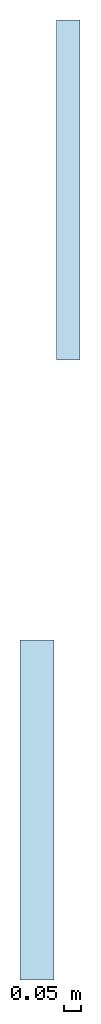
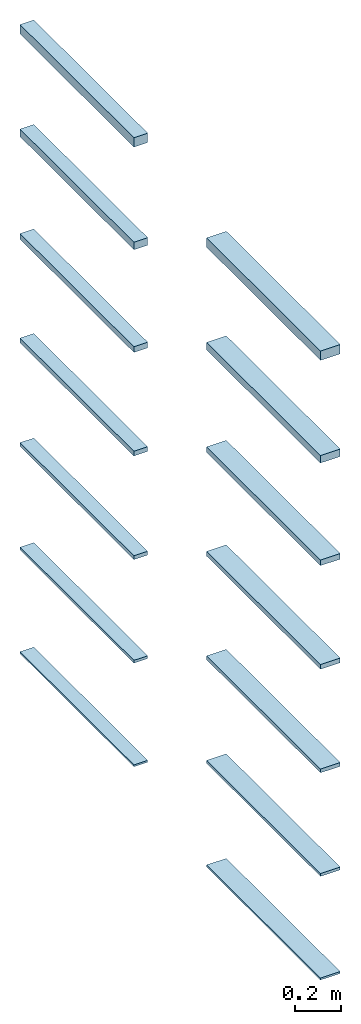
# One storey: 14 slabs.
"""IFC2X3 building model written with IfcOpenShell, lengths in metres."""

from ifc_helpers import new_model, entity, si_unit, converted_unit, derived_unit, direction, frame, frame_2d, origin, place, context, subcontext, project, spatial, rectangle, extrude, material, layer, layer_set, layer_usage, element, save


model = new_model("IFC2X3")

# Units and contexts
model_context = context("Model", 3, precision=1e-05, world=origin(), true_north=direction((6.12303176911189e-17, 1.0)))
body_context = subcontext(model_context, "Body", "Model", "MODEL_VIEW")
ifc_project = project(units=[si_unit("LENGTHUNIT", "METRE"), si_unit("AREAUNIT", "SQUARE_METRE"), si_unit("VOLUMEUNIT", "CUBIC_METRE"), converted_unit("PLANEANGLEUNIT", "DEGREE", entity("IfcRatioMeasure", 0.0174532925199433), si_unit("PLANEANGLEUNIT", "RADIAN"), dimensions=[0, 0, 0, 0, 0, 0, 0]), si_unit("MASSUNIT", "GRAM", prefix="KILO"), derived_unit("MASSDENSITYUNIT", [(si_unit("MASSUNIT", "GRAM", prefix="KILO"), 1), (si_unit("LENGTHUNIT", "METRE"), -3)]), si_unit("TIMEUNIT", "SECOND"), si_unit("FREQUENCYUNIT", "HERTZ"), si_unit("THERMODYNAMICTEMPERATUREUNIT", "DEGREE_CELSIUS"), derived_unit("THERMALTRANSMITTANCEUNIT", [(si_unit("MASSUNIT", "GRAM", prefix="KILO"), 1), (si_unit("THERMODYNAMICTEMPERATUREUNIT", "KELVIN"), -1), (si_unit("TIMEUNIT", "SECOND"), -3)]), derived_unit("VOLUMETRICFLOWRATEUNIT", [(si_unit("LENGTHUNIT", "METRE"), 3), (si_unit("TIMEUNIT", "SECOND"), -1)]), si_unit("ELECTRICCURRENTUNIT", "AMPERE"), si_unit("ELECTRICVOLTAGEUNIT", "VOLT"), si_unit("POWERUNIT", "WATT"), si_unit("FORCEUNIT", "NEWTON", prefix="KILO"), si_unit("ILLUMINANCEUNIT", "LUX"), si_unit("LUMINOUSFLUXUNIT", "LUMEN"), si_unit("LUMINOUSINTENSITYUNIT", "CANDELA"), derived_unit("USERDEFINED", [(si_unit("MASSUNIT", "GRAM", prefix="KILO"), -1), (si_unit("LENGTHUNIT", "METRE"), -2), (si_unit("TIMEUNIT", "SECOND"), 3), (si_unit("LUMINOUSFLUXUNIT", "LUMEN"), 1)]), derived_unit("LINEARVELOCITYUNIT", [(si_unit("LENGTHUNIT", "METRE"), 1), (si_unit("TIMEUNIT", "SECOND"), -1)]), si_unit("PRESSUREUNIT", "PASCAL"), derived_unit("USERDEFINED", [(si_unit("LENGTHUNIT", "METRE"), -2), (si_unit("MASSUNIT", "GRAM", prefix="KILO"), 1), (si_unit("TIMEUNIT", "SECOND"), -2)])], contexts=[model_context])

# Site, building, storey
site_placement = place(None, origin())
site = spatial("IfcSite", under=ifc_project, at=site_placement, Name="Default", CompositionType="ELEMENT")
building_placement = place(site_placement, origin())
building = spatial("IfcBuilding", under=site, at=building_placement, CompositionType="ELEMENT")
storey_placement = place(building_placement, origin())
storey = spatial("IfcBuildingStorey", under=building, at=storey_placement, Name="Nivel 1", CompositionType="ELEMENT", Elevation=0.0)

# Slabs
ifc_material = material(Name="VALERO Grafipol® TR-0 Tiras")
ifc_layer_1 = layer(ifc_material, 0.01)
ifc_layer_set_1 = layer_set([ifc_layer_1], Name="Suelo:Grafipol® TR-0 Tiras_1000x100x10mm")
ifc_layer_usage_1 = layer_usage(ifc_layer_set_1, "AXIS3", "POSITIVE", 0.0)
slab_1_placement = place(storey_placement, origin())
element("IfcSlab", 1, at=slab_1_placement, inside=storey, material=ifc_layer_usage_1, Name="Suelo:Grafipol® TR-0 Tiras_1000x100x10mm", ObjectType="Suelo:Grafipol® TR-0 Tiras_1000x100x10mm", PredefinedType="FLOOR", context=body_context, shape_type="SweptSolid", body=[
    extrude(rectangle(XDim=1.0, YDim=0.0999999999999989, at=frame_2d((-1.11022302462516e-16, 0.0), x_axis=(1.0, 0.0))), frame((12.2092257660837, -2.20665702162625, 0.0), z_axis=(0.0, 0.0, -1.0), x_axis=(0.0, 1.0, 0.0)), (0.0, 0.0, 1.0), 0.01),
])
ifc_layer_2 = layer(ifc_material, 0.015)
ifc_layer_set_2 = layer_set([ifc_layer_2], Name="Suelo:Grafipol® TR-0 Tiras_1000x100x15mm")
ifc_layer_usage_2 = layer_usage(ifc_layer_set_2, "AXIS3", "POSITIVE", 0.0)
slab_2_placement = place(storey_placement, origin())
element("IfcSlab", 2, at=slab_2_placement, inside=storey, material=ifc_layer_usage_2, Name="Suelo:Grafipol® TR-0 Tiras_1000x100x15mm", ObjectType="Suelo:Grafipol® TR-0 Tiras_1000x100x15mm", PredefinedType="FLOOR", context=body_context, shape_type="SweptSolid", body=[
    extrude(rectangle(XDim=1.0, YDim=0.0999999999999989, at=frame_2d((-1.11022302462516e-16, 0.0), x_axis=(1.0, 0.0))), frame((12.2092257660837, -2.20665702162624, 0.56), z_axis=(0.0, 0.0, -1.0), x_axis=(0.0, 1.0, 0.0)), (0.0, 0.0, 1.0), 0.015),
])
ifc_layer_3 = layer(ifc_material, 0.02)
ifc_layer_set_3 = layer_set([ifc_layer_3], Name="Suelo:Grafipol® TR-0 Tiras_1000x100x20mm")
ifc_layer_usage_3 = layer_usage(ifc_layer_set_3, "AXIS3", "POSITIVE", 0.0)
slab_3_placement = place(storey_placement, origin())
element("IfcSlab", 3, at=slab_3_placement, inside=storey, material=ifc_layer_usage_3, Name="Suelo:Grafipol® TR-0 Tiras_1000x100x20mm", ObjectType="Suelo:Grafipol® TR-0 Tiras_1000x100x20mm", PredefinedType="FLOOR", context=body_context, shape_type="SweptSolid", body=[
    extrude(rectangle(XDim=1.0, YDim=0.0999999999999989, at=frame_2d((-1.11022302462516e-16, 0.0), x_axis=(1.0, 0.0))), frame((12.2092257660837, -2.20665702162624, 1.12), z_axis=(0.0, 0.0, -1.0), x_axis=(0.0, 1.0, 0.0)), (0.0, 0.0, 1.0), 0.0200000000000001),
])
ifc_layer_4 = layer(ifc_material, 0.025)
ifc_layer_set_4 = layer_set([ifc_layer_4], Name="Suelo:Grafipol® TR-0 Tiras_1000x100x25mm")
ifc_layer_usage_4 = layer_usage(ifc_layer_set_4, "AXIS3", "POSITIVE", 0.0)
slab_4_placement = place(storey_placement, origin())
element("IfcSlab", 4, at=slab_4_placement, inside=storey, material=ifc_layer_usage_4, Name="Suelo:Grafipol® TR-0 Tiras_1000x100x25mm", ObjectType="Suelo:Grafipol® TR-0 Tiras_1000x100x25mm", PredefinedType="FLOOR", context=body_context, shape_type="SweptSolid", body=[
    extrude(rectangle(XDim=1.0, YDim=0.0999999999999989, at=frame_2d((-1.11022302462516e-16, 0.0), x_axis=(1.0, 0.0))), frame((12.2092257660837, -2.20665702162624, 1.68), z_axis=(0.0, 0.0, -1.0), x_axis=(0.0, 1.0, 0.0)), (0.0, 0.0, 1.0), 0.025),
])
ifc_layer_5 = layer(ifc_material, 0.03)
ifc_layer_set_5 = layer_set([ifc_layer_5], Name="Suelo:Grafipol® TR-0 Tiras_1000x100x30mm")
ifc_layer_usage_5 = layer_usage(ifc_layer_set_5, "AXIS3", "POSITIVE", 0.0)
slab_5_placement = place(storey_placement, origin())
element("IfcSlab", 5, at=slab_5_placement, inside=storey, material=ifc_layer_usage_5, Name="Suelo:Grafipol® TR-0 Tiras_1000x100x30mm", ObjectType="Suelo:Grafipol® TR-0 Tiras_1000x100x30mm", PredefinedType="FLOOR", context=body_context, shape_type="SweptSolid", body=[
    extrude(rectangle(XDim=1.0, YDim=0.0999999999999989, at=frame_2d((-1.11022302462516e-16, 0.0), x_axis=(1.0, 0.0))), frame((12.2092257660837, -2.20665702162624, 2.24), z_axis=(0.0, 0.0, -1.0), x_axis=(0.0, 1.0, 0.0)), (0.0, 0.0, 1.0), 0.0299999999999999),
])
ifc_layer_6 = layer(ifc_material, 0.04)
ifc_layer_set_6 = layer_set([ifc_layer_6], Name="Suelo:Grafipol® TR-0 Tiras_1000x100x40mm")
ifc_layer_usage_6 = layer_usage(ifc_layer_set_6, "AXIS3", "POSITIVE", 0.0)
slab_6_placement = place(storey_placement, origin())
element("IfcSlab", 6, at=slab_6_placement, inside=storey, material=ifc_layer_usage_6, Name="Suelo:Grafipol® TR-0 Tiras_1000x100x40mm", ObjectType="Suelo:Grafipol® TR-0 Tiras_1000x100x40mm", PredefinedType="FLOOR", context=body_context, shape_type="SweptSolid", body=[
    extrude(rectangle(XDim=1.0, YDim=0.0999999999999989, at=frame_2d((-1.11022302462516e-16, 0.0), x_axis=(1.0, 0.0))), frame((12.2092257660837, -2.20665702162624, 2.8), z_axis=(0.0, 0.0, -1.0), x_axis=(0.0, 1.0, 0.0)), (0.0, 0.0, 1.0), 0.0400000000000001),
])
ifc_layer_7 = layer(ifc_material, 0.05)
ifc_layer_set_7 = layer_set([ifc_layer_7], Name="Suelo:Grafipol® TR-0 Tiras_1000x100x50mm")
ifc_layer_usage_7 = layer_usage(ifc_layer_set_7, "AXIS3", "POSITIVE", 0.0)
slab_7_placement = place(storey_placement, origin())
element("IfcSlab", 7, at=slab_7_placement, inside=storey, material=ifc_layer_usage_7, Name="Suelo:Grafipol® TR-0 Tiras_1000x100x50mm", ObjectType="Suelo:Grafipol® TR-0 Tiras_1000x100x50mm", PredefinedType="FLOOR", context=body_context, shape_type="SweptSolid", body=[
    extrude(rectangle(XDim=1.0, YDim=0.0999999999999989, at=frame_2d((-1.11022302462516e-16, 0.0), x_axis=(1.0, 0.0))), frame((12.2092257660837, -2.20665702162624, 3.36), z_axis=(0.0, 0.0, -1.0), x_axis=(0.0, 1.0, 0.0)), (0.0, 0.0, 1.0), 0.05),
])
ifc_layer_8 = layer(ifc_material, 0.01)
ifc_layer_set_8 = layer_set([ifc_layer_8], Name="Suelo:Grafipol® TR-0 Tiras_1000x70x10mm")
ifc_layer_usage_8 = layer_usage(ifc_layer_set_8, "AXIS3", "POSITIVE", 0.0)
slab_8_placement = place(storey_placement, origin())
element("IfcSlab", 8, at=slab_8_placement, inside=storey, material=ifc_layer_usage_8, Name="Suelo:Grafipol® TR-0 Tiras_1000x70x10mm", ObjectType="Suelo:Grafipol® TR-0 Tiras_1000x70x10mm", PredefinedType="FLOOR", context=body_context, shape_type="SweptSolid", body=[
    extrude(rectangle(XDim=1.0, YDim=0.0699999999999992, at=frame_2d((0.0, 1.08246744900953e-15), x_axis=(1.0, 0.0))), frame((12.3010481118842, -0.384071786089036, 0.0), z_axis=(0.0, 0.0, -1.0), x_axis=(0.0, 1.0, 0.0)), (0.0, 0.0, 1.0), 0.01),
])
ifc_layer_9 = layer(ifc_material, 0.015)
ifc_layer_set_9 = layer_set([ifc_layer_9], Name="Suelo:Grafipol® TR-0 Tiras_1000x70x15mm")
ifc_layer_usage_9 = layer_usage(ifc_layer_set_9, "AXIS3", "POSITIVE", 0.0)
slab_9_placement = place(storey_placement, origin())
element("IfcSlab", 9, at=slab_9_placement, inside=storey, material=ifc_layer_usage_9, Name="Suelo:Grafipol® TR-0 Tiras_1000x70x15mm", ObjectType="Suelo:Grafipol® TR-0 Tiras_1000x70x15mm", PredefinedType="FLOOR", context=body_context, shape_type="SweptSolid", body=[
    extrude(rectangle(XDim=1.0, YDim=0.0699999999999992, at=frame_2d((0.0, 1.08246744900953e-15), x_axis=(1.0, 0.0))), frame((12.3010481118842, -0.384071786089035, 0.56), z_axis=(0.0, 0.0, -1.0), x_axis=(0.0, 1.0, 0.0)), (0.0, 0.0, 1.0), 0.015),
])
ifc_layer_10 = layer(ifc_material, 0.02)
ifc_layer_set_10 = layer_set([ifc_layer_10], Name="Suelo:Grafipol® TR-0 Tiras_1000x70x20mm")
ifc_layer_usage_10 = layer_usage(ifc_layer_set_10, "AXIS3", "POSITIVE", 0.0)
slab_10_placement = place(storey_placement, origin())
element("IfcSlab", 10, at=slab_10_placement, inside=storey, material=ifc_layer_usage_10, Name="Suelo:Grafipol® TR-0 Tiras_1000x70x20mm", ObjectType="Suelo:Grafipol® TR-0 Tiras_1000x70x20mm", PredefinedType="FLOOR", context=body_context, shape_type="SweptSolid", body=[
    extrude(rectangle(XDim=1.0, YDim=0.0699999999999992, at=frame_2d((0.0, 1.08246744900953e-15), x_axis=(1.0, 0.0))), frame((12.3010481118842, -0.384071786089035, 1.12), z_axis=(0.0, 0.0, -1.0), x_axis=(0.0, 1.0, 0.0)), (0.0, 0.0, 1.0), 0.0200000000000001),
])
ifc_layer_11 = layer(ifc_material, 0.025)
ifc_layer_set_11 = layer_set([ifc_layer_11], Name="Suelo:Grafipol® TR-0 Tiras_1000x70x25mm")
ifc_layer_usage_11 = layer_usage(ifc_layer_set_11, "AXIS3", "POSITIVE", 0.0)
slab_11_placement = place(storey_placement, origin())
element("IfcSlab", 11, at=slab_11_placement, inside=storey, material=ifc_layer_usage_11, Name="Suelo:Grafipol® TR-0 Tiras_1000x70x25mm", ObjectType="Suelo:Grafipol® TR-0 Tiras_1000x70x25mm", PredefinedType="FLOOR", context=body_context, shape_type="SweptSolid", body=[
    extrude(rectangle(XDim=1.0, YDim=0.0699999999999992, at=frame_2d((0.0, 1.08246744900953e-15), x_axis=(1.0, 0.0))), frame((12.3010481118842, -0.384071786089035, 1.68), z_axis=(0.0, 0.0, -1.0), x_axis=(0.0, 1.0, 0.0)), (0.0, 0.0, 1.0), 0.025),
])
ifc_layer_12 = layer(ifc_material, 0.03)
ifc_layer_set_12 = layer_set([ifc_layer_12], Name="Suelo:Grafipol® TR-0 Tiras_1000x70x30mm")
ifc_layer_usage_12 = layer_usage(ifc_layer_set_12, "AXIS3", "POSITIVE", 0.0)
slab_12_placement = place(storey_placement, origin())
element("IfcSlab", 12, at=slab_12_placement, inside=storey, material=ifc_layer_usage_12, Name="Suelo:Grafipol® TR-0 Tiras_1000x70x30mm", ObjectType="Suelo:Grafipol® TR-0 Tiras_1000x70x30mm", PredefinedType="FLOOR", context=body_context, shape_type="SweptSolid", body=[
    extrude(rectangle(XDim=1.0, YDim=0.0699999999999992, at=frame_2d((0.0, 1.08246744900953e-15), x_axis=(1.0, 0.0))), frame((12.3010481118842, -0.384071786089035, 2.24), z_axis=(0.0, 0.0, -1.0), x_axis=(0.0, 1.0, 0.0)), (0.0, 0.0, 1.0), 0.0299999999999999),
])
ifc_layer_13 = layer(ifc_material, 0.04)
ifc_layer_set_13 = layer_set([ifc_layer_13], Name="Suelo:Grafipol® TR-0 Tiras_1000x70x40mm")
ifc_layer_usage_13 = layer_usage(ifc_layer_set_13, "AXIS3", "POSITIVE", 0.0)
slab_13_placement = place(storey_placement, origin())
element("IfcSlab", 13, at=slab_13_placement, inside=storey, material=ifc_layer_usage_13, Name="Suelo:Grafipol® TR-0 Tiras_1000x70x40mm", ObjectType="Suelo:Grafipol® TR-0 Tiras_1000x70x40mm", PredefinedType="FLOOR", context=body_context, shape_type="SweptSolid", body=[
    extrude(rectangle(XDim=1.0, YDim=0.0699999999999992, at=frame_2d((0.0, 1.08246744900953e-15), x_axis=(1.0, 0.0))), frame((12.3010481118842, -0.384071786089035, 2.8), z_axis=(0.0, 0.0, -1.0), x_axis=(0.0, 1.0, 0.0)), (0.0, 0.0, 1.0), 0.0400000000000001),
])
ifc_layer_14 = layer(ifc_material, 0.05)
ifc_layer_set_14 = layer_set([ifc_layer_14], Name="Suelo:Grafipol® TR-0 Tiras_1000x70x50mm")
ifc_layer_usage_14 = layer_usage(ifc_layer_set_14, "AXIS3", "POSITIVE", 0.0)
slab_14_placement = place(storey_placement, origin())
element("IfcSlab", 14, at=slab_14_placement, inside=storey, material=ifc_layer_usage_14, Name="Suelo:Grafipol® TR-0 Tiras_1000x70x50mm", ObjectType="Suelo:Grafipol® TR-0 Tiras_1000x70x50mm", PredefinedType="FLOOR", context=body_context, shape_type="SweptSolid", body=[
    extrude(rectangle(XDim=1.0, YDim=0.0699999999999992, at=frame_2d((0.0, 1.08246744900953e-15), x_axis=(1.0, 0.0))), frame((12.3010481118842, -0.384071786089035, 3.36), z_axis=(0.0, 0.0, -1.0), x_axis=(0.0, 1.0, 0.0)), (0.0, 0.0, 1.0), 0.05),
])

save(model, "model.ifc")
